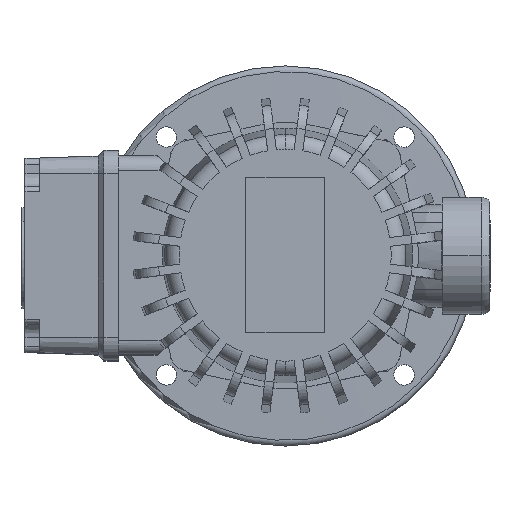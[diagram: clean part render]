
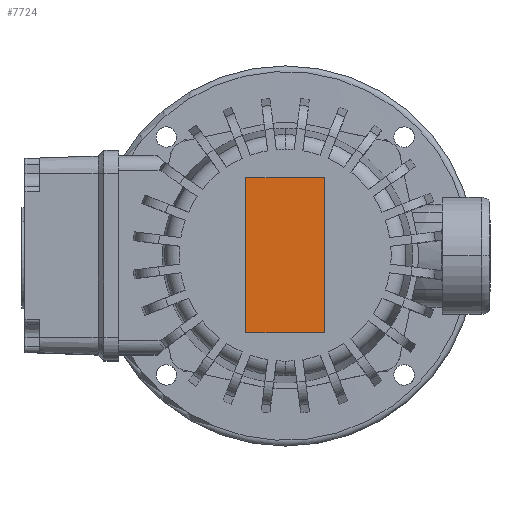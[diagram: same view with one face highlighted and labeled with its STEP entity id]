
A CAD part, top view. The second image highlights one B-rep face of the part: STEP entity #7724.
In plain terms, the highlighted planar face has unit normal (0, 0, 1).
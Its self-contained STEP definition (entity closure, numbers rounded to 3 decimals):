
#3324=EDGE_CURVE('',#6572,#7260,#9621,.T.);
#3966=EDGE_CURVE('',#8658,#6572,#10322,.T.);
#5168=EDGE_CURVE('',#9168,#8658,#11653,.T.);
#6572=VERTEX_POINT('',#13186);
#7260=VERTEX_POINT('',#13940);
#7490=EDGE_CURVE('',#7260,#9168,#14184,.T.);
#7724=ADVANCED_FACE('',(#14445),#14446,.T.);
#8658=VERTEX_POINT('',#15454);
#9168=VERTEX_POINT('',#16011);
#9621=LINE('',#16602,#16603);
#10322=LINE('',#17948,#17949);
#11653=LINE('',#20606,#20607);
#13186=CARTESIAN_POINT('',(13.5,26.5,103.0));
#13940=CARTESIAN_POINT('',(13.5,-26.5,103.0));
#14184=LINE('',#25700,#25701);
#14445=FACE_OUTER_BOUND('',#26195,.T.);
#14446=PLANE('',#26196);
#15454=CARTESIAN_POINT('',(-13.5,26.5,103.0));
#16011=CARTESIAN_POINT('',(-13.5,-26.5,103.0));
#16602=CARTESIAN_POINT('',(13.5,0.0,103.0));
#16603=VECTOR('',#30132,1.0);
#17948=CARTESIAN_POINT('',(0.0,26.5,103.0));
#17949=VECTOR('',#30935,1.0);
#20606=CARTESIAN_POINT('',(-13.5,0.0,103.0));
#20607=VECTOR('',#32546,1.0);
#25700=CARTESIAN_POINT('',(0.0,-26.5,103.0));
#25701=VECTOR('',#35353,1.0);
#26195=EDGE_LOOP('',(#35682,#35683,#35684,#35685));
#26196=AXIS2_PLACEMENT_3D('',#35686,#35687,#35688);
#30132=DIRECTION('',(0.0,-1.0,0.0));
#30935=DIRECTION('',(1.0,0.0,0.0));
#32546=DIRECTION('',(0.0,1.0,0.0));
#35353=DIRECTION('',(-1.0,0.0,0.0));
#35682=ORIENTED_EDGE('',*,*,#3966,.F.);
#35683=ORIENTED_EDGE('',*,*,#5168,.F.);
#35684=ORIENTED_EDGE('',*,*,#7490,.F.);
#35685=ORIENTED_EDGE('',*,*,#3324,.F.);
#35686=CARTESIAN_POINT('',(0.0,0.0,103.0));
#35687=DIRECTION('',(0.0,-0.0,1.0));
#35688=DIRECTION('',(0.0,1.0,0.0));
